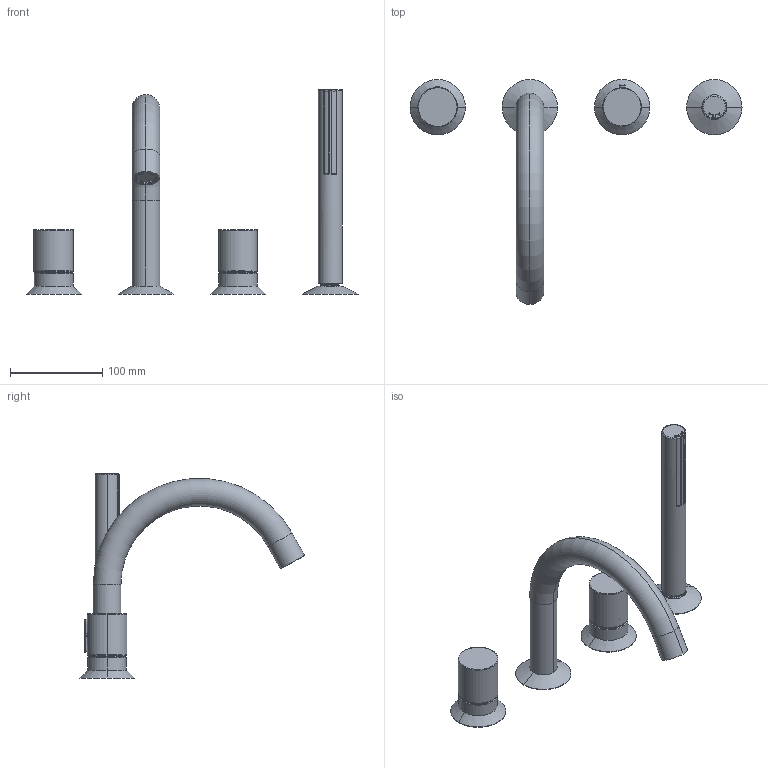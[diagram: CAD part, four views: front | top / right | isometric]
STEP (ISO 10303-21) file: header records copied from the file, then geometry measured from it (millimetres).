
FILE_DESCRIPTION((''),'2;1');
FILE_NAME('50000E9650000000_SW0001','2025-09-15T10:01:35',('matteo.follador'),(''),'CREO PARAMETRIC BY PTC INC, 2025010','CREO PARAMETRIC BY PTC INC, 2025010','');
FILE_SCHEMA(('AUTOMOTIVE_DESIGN { 1 0 10303 214 1 1 1 1 }'));
Length unit declared in the file: millimetre
Products named in the file (1): 50000E9650000000_SW0001
Bounding box: 360 x 244.13 x 222.21 mm (x, y, z)
Volume: 620352.8 mm3; surface area: 106136.5 mm2
Topology: 4 solids, 5 shells, 255 faces, 638 edges, 411 vertices
Faces by surface type: cylinder 83, plane 74, bspline 36, torus 32, cone 27, sphere 3
Entity records: 16597 total; most frequent: CARTESIAN_POINT 9205, ORIENTED_EDGE 1272, DIRECTION 1154, EDGE_CURVE 636, AXIS2_PLACEMENT_3D 469, VERTEX_POINT 411, EDGE_LOOP 277, FACE_OUTER_BOUND 255
